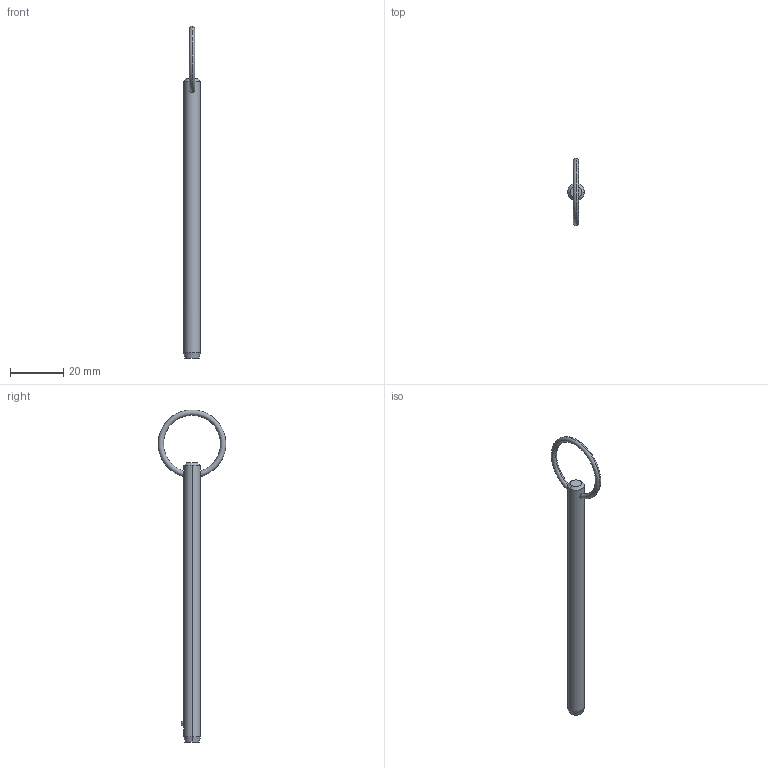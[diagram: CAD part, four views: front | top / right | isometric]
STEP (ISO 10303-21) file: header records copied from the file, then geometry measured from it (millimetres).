
FILE_DESCRIPTION (( 'STEP AP203' ), '1' );
FILE_NAME ('P1250.025-360.step', '2019-07-29T19:45:53', ( '' ), ( '' ), 'SwSTEP 2.0', 'SolidWorks 2017', '' );
FILE_SCHEMA (( 'CONFIG_CONTROL_DESIGN' ));
Length unit declared in the file: millimetre
Products named in the file (1): P1250.025-360
Bounding box: 6.35 x 25.38 x 124.72 mm (x, y, z)
Volume: 3515.8 mm3; surface area: 2550 mm2
Topology: 1 solids, 1 shells, 12 faces, 28 edges, 17 vertices
Faces by surface type: cone 4, torus 2, sphere 2, cylinder 2, plane 2
Entity records: 481 total; most frequent: CARTESIAN_POINT 148, DIRECTION 56, ORIENTED_EDGE 48, AXIS2_PLACEMENT_3D 25, EDGE_CURVE 24, EDGE_LOOP 15, VERTEX_POINT 15, CIRCLE 12
